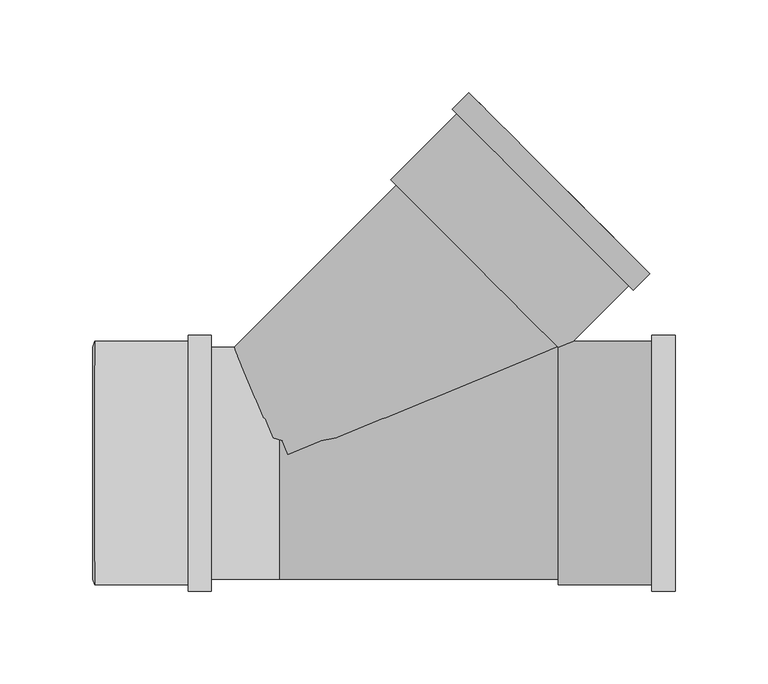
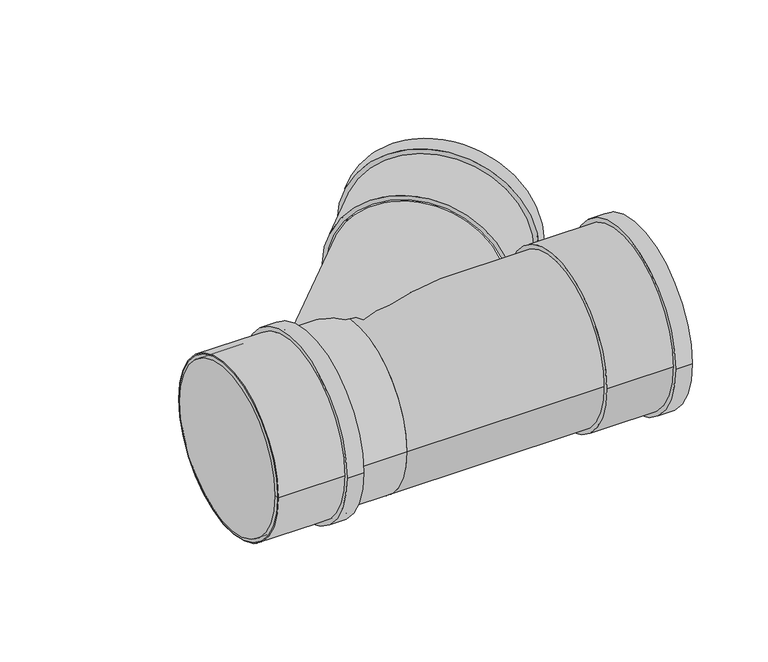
"""IFC4 building model written with IfcOpenShell, lengths in millimetres: pipe fitting geometry, Superdrain HTEA Branch : Superdrain HTEA Branch."""

from ifc_helpers import new_model, si_unit, point, frame, origin, origin_2d, place, context, project, spatial, polyline, circle_curve, trimmed, segment, composite_curve, outline, extrude, source, transform, mapped, element, save
from ifc_brep_helpers import plane_surface, cylinder_surface, revolved_surface, advanced_brep


def pipe_fitting_170b30c4(model_context):
    return source(origin(), model_context, "Body", "SolidModel", [
        extrude(outline(composite_curve([segment(trimmed(circle_curve(origin_2d(), 65.625), [point((65.625, 0.0))], [point((-65.625, 0.0))], False, "CARTESIAN"), True, "CONTINUOUS"), segment(trimmed(circle_curve(origin_2d(), 65.625), [point((-65.625, 0.0))], [point((65.625, 0.0))], False, "CARTESIAN"), True, "CONTINUOUS")], self_intersect=False), holes=[composite_curve([segment(trimmed(circle_curve(origin_2d(), 62.5), [point((62.5, 0.0))], [point((-62.5, 0.0))], True, "CARTESIAN"), True, "CONTINUOUS"), segment(trimmed(circle_curve(origin_2d(), 62.5), [point((-62.5, 0.0))], [point((62.5, 0.0))], True, "CARTESIAN"), True, "CONTINUOUS")], self_intersect=False)]), frame((-99.5, 0.0, 0.0), z_axis=(1.0, 0.0, 0.0), x_axis=(0.0, 1.0, 0.0)), (0.0, 0.0, 1.0), 63.0),
        extrude(outline(composite_curve([segment(trimmed(circle_curve(origin_2d(), 68.90625), [point((68.90625, 0.0))], [point((-68.90625, 0.0))], False, "CARTESIAN"), True, "CONTINUOUS"), segment(trimmed(circle_curve(origin_2d(), 68.90625), [point((-68.90625, 0.0))], [point((68.90625, 0.0))], False, "CARTESIAN"), True, "CONTINUOUS")], self_intersect=False), holes=[composite_curve([segment(trimmed(circle_curve(origin_2d(), 62.5), [point((62.5, 0.0))], [point((-62.5, 0.0))], True, "CARTESIAN"), True, "CONTINUOUS"), segment(trimmed(circle_curve(origin_2d(), 62.5), [point((-62.5, 0.0))], [point((62.5, 0.0))], True, "CARTESIAN"), True, "CONTINUOUS")], self_intersect=False)]), frame((-49.1, 0.0, 0.0), z_axis=(1.0, 0.0, 0.0), x_axis=(0.0, 1.0, 0.0)), (0.0, 0.0, 1.0), 12.6),
        advanced_brep(
        [(-100.5, 62.5, 0.0), (-100.5, -62.5, 0.0), (-99.5, 65.625, 0.0), (-99.5, -65.625, 0.0)],
        [
            (0, 1, circle_curve(frame((-100.5, 0.0, 0.0), z_axis=(-1.0, 0.0, 0.0), x_axis=(0.0, 1.0000000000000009, 0.0)), 62.5)),
            (1, 0, circle_curve(frame((-100.5, 0.0, 0.0), z_axis=(-1.0, 0.0, 0.0), x_axis=(0.0, -1.0000000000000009, 0.0)), 62.5)),
            (2, 3, circle_curve(frame((-99.5, 0.0, 0.0), z_axis=(1.0, 0.0, 0.0), x_axis=(0.0, -1.0000000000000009, 0.0)), 65.625)),
            (3, 2, circle_curve(frame((-99.5, 0.0, 0.0), z_axis=(1.0, 0.0, 0.0), x_axis=(0.0, 1.0000000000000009, 0.0)), 65.625)),
            (3, 1),
            (0, 2),
        ],
        [
            plane_surface(frame((-100.5, 0.0, 0.0), z_axis=(-1.0, 0.0, 0.0), x_axis=(0.0, 0.0, -1.0))),
            plane_surface(frame((-99.5, 0.0, 0.0), z_axis=(1.0, 0.0, 0.0), x_axis=(0.0, 0.0, -1.0))),
            revolved_surface(polyline([(-100.5, 62.499999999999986, 0.0), (-99.5, 65.625, 0.0)]), (-120.5, 0.0, 0.0), (1.0000000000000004, 0.0, 0.0)),
            revolved_surface(polyline([(-100.5, -62.499999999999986, 0.0), (-99.5, -65.625, 0.0)]), (-120.5, 0.0, 0.0), (1.0000000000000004, 0.0, 0.0)),
        ],
        [
            (0, [[1, 2]]),
            (1, [[3, 4]]),
            (2, [[-4, 5, -1, 6]]),
            (3, [[-3, -6, -2, -5]]),
        ],
    ),
        advanced_brep(
        [(150.5, -65.625, 0.0), (150.5, 65.625, 0.0), (213.5, -65.625, 0.0), (213.5, 65.625, 0.0), (213.5, -62.5, 0.0), (213.5, 62.5, 0.0), (151.5, -62.5, 0.0), (151.5, 62.5, 0.0)],
        [
            (0, 1, circle_curve(frame((150.5, 0.0, 0.0), z_axis=(-1.0, 0.0, 0.0), x_axis=(0.0, 1.0, 0.0)), 65.625)),
            (1, 0, circle_curve(frame((150.5, 0.0, 0.0), z_axis=(-1.0, 0.0, 0.0), x_axis=(0.0, 1.0, 0.0)), 65.625)),
            (2, 3, circle_curve(frame((213.5, 0.0, 0.0), z_axis=(1.0, 0.0, 0.0), x_axis=(0.0, 1.0, 0.0)), 65.625)),
            (3, 2, circle_curve(frame((213.5, 0.0, 0.0), z_axis=(1.0, 0.0, 0.0), x_axis=(0.0, 1.0, 0.0)), 65.625)),
            (4, 5, circle_curve(frame((213.5, 0.0, 0.0), z_axis=(-1.0, 0.0, 0.0), x_axis=(0.0, 1.0, 0.0)), 62.5)),
            (5, 4, circle_curve(frame((213.5, 0.0, 0.0), z_axis=(-1.0, 0.0, 0.0), x_axis=(0.0, 1.0, 0.0)), 62.5)),
            (0, 2),
            (3, 1),
            (6, 7, circle_curve(frame((151.5, 0.0, 0.0), z_axis=(-1.0, 0.0, 0.0), x_axis=(0.0, 1.0, 0.0)), 62.5)),
            (7, 5),
            (4, 6),
            (7, 6, circle_curve(frame((151.5, 0.0, 0.0), z_axis=(-1.0, 0.0, 0.0), x_axis=(0.0, 1.0, 0.0)), 62.5)),
        ],
        [
            plane_surface(frame((150.5, 0.0, 0.0), z_axis=(-1.0, 0.0, 0.0), x_axis=(0.0, 0.0, 1.0))),
            plane_surface(frame((213.5, 0.0, 0.0), z_axis=(1.0, 0.0, 0.0), x_axis=(0.0, 0.0, 1.0))),
            cylinder_surface(frame((150.5, 0.0, 0.0), z_axis=(-1.0, 0.0, 0.0), x_axis=(0.0, 1.0, 0.0)), 65.625),
            revolved_surface(polyline([(151.5, 62.5, 0.0), (213.5, 62.5, 0.0)]), (151.5, 0.0, 0.0), (-1.0, 0.0, 0.0)),
            plane_surface(frame((151.5, 0.0, 0.0), z_axis=(1.0, 0.0, 0.0), x_axis=(0.0, 0.0, 1.0))),
        ],
        [
            (0, [[1, 2]]),
            (1, [[3, 4], [5, 6]]),
            (2, [[-1, 7, -4, 8]]),
            (2, [[-2, -8, -3, -7]]),
            (3, [[9, 10, -5, 11]]),
            (3, [[12, -11, -6, -10]]),
            (4, [[-12, -9]]),
        ],
    ),
        extrude(outline(composite_curve([segment(trimmed(circle_curve(origin_2d(), 68.90625), [point((68.90625, 0.0))], [point((-68.90625, 0.0))], False, "CARTESIAN"), True, "CONTINUOUS"), segment(trimmed(circle_curve(origin_2d(), 68.90625), [point((-68.90625, 0.0))], [point((68.90625, 0.0))], False, "CARTESIAN"), True, "CONTINUOUS")], self_intersect=False), holes=[composite_curve([segment(trimmed(circle_curve(origin_2d(), 62.5), [point((62.5, 0.0))], [point((-62.5, 0.0))], True, "CARTESIAN"), True, "CONTINUOUS"), segment(trimmed(circle_curve(origin_2d(), 62.5), [point((-62.5, 0.0))], [point((62.5, 0.0))], True, "CARTESIAN"), True, "CONTINUOUS")], self_intersect=False)]), frame((200.9, 0.0, 0.0), z_axis=(1.0, 0.0, 0.0), x_axis=(0.0, 1.0, 0.0)), (0.0, 0.0, 1.0), 12.6),
        extrude(outline(composite_curve([segment(trimmed(circle_curve(origin_2d(), 61.25), [point((0.0, 61.2499999))], [point((0.0, -61.2499999))], False, "CARTESIAN"), True, "CONTINUOUS"), segment(trimmed(circle_curve(origin_2d(), 61.25), [point((0.0, -61.2499999))], [point((0.0, 61.2499999))], False, "CARTESIAN"), True, "CONTINUOUS")], self_intersect=False)), frame((0.0, 0.0, 0.0), z_axis=(0.7071067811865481, 0.7071067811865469, 0.0), x_axis=(0.0, 0.0, 1.0)), (0.0, 0.0, 1.0), 150.5),
        extrude(outline(composite_curve([segment(trimmed(circle_curve(origin_2d(), 62.5), [point((62.5, 0.0))], [point((-62.5, 0.0))], False, "CARTESIAN"), True, "CONTINUOUS"), segment(trimmed(circle_curve(origin_2d(), 62.5), [point((-62.5, 0.0))], [point((62.5, 0.0))], False, "CARTESIAN"), True, "CONTINUOUS")], self_intersect=False)), frame((-99.5, 0.0, 0.0), z_axis=(1.0, 0.0, 0.0), x_axis=(0.0, 1.0, 0.0)), (0.0, 0.0, 1.0), 99.5),
        extrude(outline(composite_curve([segment(trimmed(circle_curve(origin_2d(), 62.5), [point((-62.5, 0.0))], [point((62.5, 0.0))], False, "CARTESIAN"), True, "CONTINUOUS"), segment(trimmed(circle_curve(origin_2d(), 62.5), [point((62.5, 0.0))], [point((-62.5, 0.0))], False, "CARTESIAN"), True, "CONTINUOUS")], self_intersect=False)), frame((0.0, 0.0, 0.0), z_axis=(1.0, 0.0, 0.0), x_axis=(0.0, 1.0, 0.0)), (0.0, 0.0, 1.0), 150.5),
        extrude(outline(composite_curve([segment(trimmed(circle_curve(origin_2d(), 68.90625), [point((0.0, 68.90625))], [point((0.0, -68.90625))], False, "CARTESIAN"), True, "CONTINUOUS"), segment(trimmed(circle_curve(origin_2d(), 68.90625), [point((0.0, -68.90625))], [point((0.0, 68.90625))], False, "CARTESIAN"), True, "CONTINUOUS")], self_intersect=False), holes=[composite_curve([segment(trimmed(circle_curve(origin_2d(), 62.5), [point((0.0, 62.5))], [point((0.0, -62.5))], True, "CARTESIAN"), True, "CONTINUOUS"), segment(trimmed(circle_curve(origin_2d(), 62.5), [point((0.0, -62.5))], [point((0.0, 62.5))], True, "CARTESIAN"), True, "CONTINUOUS")], self_intersect=False)]), frame((142.0577523, 142.0577523, 0.0), z_axis=(0.7071067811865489, 0.7071067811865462, 0.0), x_axis=(0.0, 0.0, 1.0)), (0.0, 0.0, 1.0), 12.6),
        extrude(outline(composite_curve([segment(trimmed(circle_curve(origin_2d(), 65.625), [point((0.0, 65.625))], [point((0.0, -65.625))], False, "CARTESIAN"), True, "CONTINUOUS"), segment(trimmed(circle_curve(origin_2d(), 65.625), [point((0.0, -65.625))], [point((0.0, 65.625))], False, "CARTESIAN"), True, "CONTINUOUS")], self_intersect=False), holes=[composite_curve([segment(trimmed(circle_curve(origin_2d(), 62.5), [point((0.0, 62.5))], [point((0.0, -62.5))], True, "CARTESIAN"), True, "CONTINUOUS"), segment(trimmed(circle_curve(origin_2d(), 62.5), [point((0.0, -62.5))], [point((0.0, 62.5))], True, "CARTESIAN"), True, "CONTINUOUS")], self_intersect=False)]), frame((106.4195706, 106.4195706, 0.0), z_axis=(0.7071067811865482, 0.7071067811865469, 0.0), x_axis=(0.0, 0.0, 1.0)), (0.0, 0.0, 1.0), 63.0),
    ])


if __name__ == "__main__":
    model = new_model("IFC4")
    model_context = context("Model", 3, world=origin())
    ifc_project = project(units=[si_unit("LENGTHUNIT", "METRE", prefix="MILLI")], contexts=[model_context])
    site = spatial("IfcSite", under=ifc_project)
    building = spatial("IfcBuilding", under=site)
    placement = place(None, origin())
    pipe_fitting_shape = pipe_fitting_170b30c4(model_context)
    element("IfcPipeFitting", 1, ObjectType="Superdrain HTEA Branch : Superdrain HTEA Branch", at=placement, inside=building, context=model_context, shape_type="MappedRepresentation", body=[
        mapped(pipe_fitting_shape, transform((0.0, 0.0, 0.0), x_axis=(1.0, 0.0, 0.0), y_axis=(0.0, 1.0, 0.0), z_axis=(0.0, 0.0, 1.0))),
    ])
    save(model, "model.ifc")
